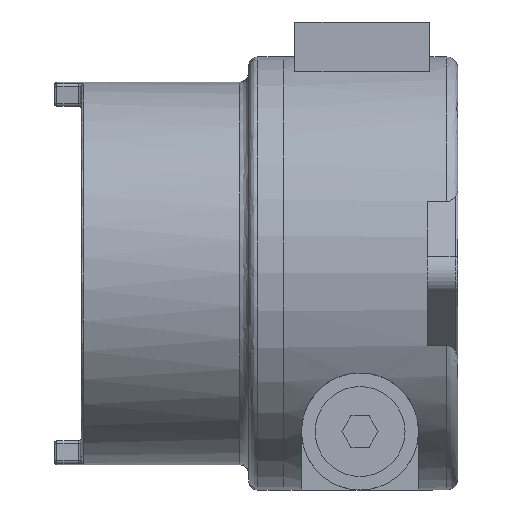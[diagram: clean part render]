
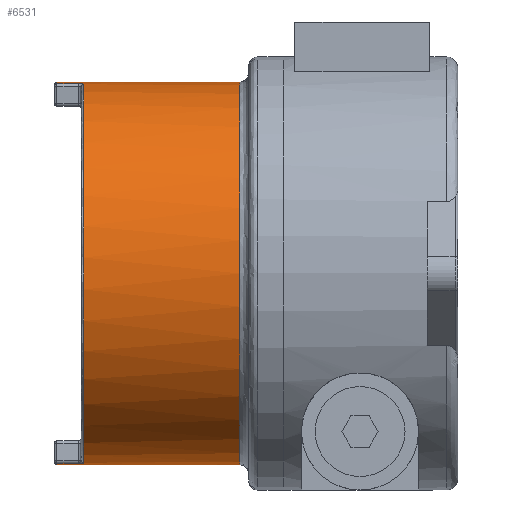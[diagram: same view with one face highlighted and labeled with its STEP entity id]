
A CAD part, left-side view. The second image highlights one B-rep face of the part: STEP entity #6531.
In plain terms, the highlighted cylindrical face has radius 53.975 mm (diameter 107.95 mm), a partial arc.
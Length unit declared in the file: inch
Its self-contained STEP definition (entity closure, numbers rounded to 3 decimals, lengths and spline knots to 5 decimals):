
#118 = CARTESIAN_POINT ( 'NONE',  ( -0.25135, 4.2175, -2.11008 ) ) ;
#151 = CARTESIAN_POINT ( 'NONE',  ( -0.25135, 4.2175, 2.11008 ) ) ;
#211 = EDGE_CURVE ( 'NONE', #8259, #247, #10815, .T. ) ;
#247 = VERTEX_POINT ( 'NONE', #9716 ) ;
#355 = LINE ( 'NONE', #7809, #2479 ) ;
#392 = CARTESIAN_POINT ( 'NONE',  ( -0.25293, 4.20174, 2.1099 ) ) ;
#448 = EDGE_CURVE ( 'NONE', #4415, #8259, #3884, .T. ) ;
#565 = CARTESIAN_POINT ( 'NONE',  ( -0.31176, 4.1575, -2.10201 ) ) ;
#583 = EDGE_CURVE ( 'NONE', #3743, #4752, #3339, .T. ) ;
#617 = EDGE_CURVE ( 'NONE', #9896, #8394, #3058, .T. ) ;
#618 = VECTOR ( 'NONE', #5596, 39.37008 ) ;
#812 = VERTEX_POINT ( 'NONE', #6332 ) ;
#992 = EDGE_LOOP ( 'NONE', ( #9943, #5588, #2148, #1003, #7889, #9983, #2869, #2731, #10411, #5581 ) ) ;
#1003 = ORIENTED_EDGE ( 'NONE', *, *, #6862, .T. ) ;
#1339 = CARTESIAN_POINT ( 'NONE',  ( -0.26355, 4.1805, 2.1086 ) ) ;
#1375 = DIRECTION ( 'NONE',  ( 0., -1., 0. ) ) ;
#1592 = DIRECTION ( 'NONE',  ( 0., 0., -1. ) ) ;
#1927 = CARTESIAN_POINT ( 'NONE',  ( -0.30382, 4.1575, -2.10318 ) ) ;
#2128 = CYLINDRICAL_SURFACE ( 'NONE', #3989, 2.125 ) ;
#2148 = ORIENTED_EDGE ( 'NONE', *, *, #11140, .T. ) ;
#2207 = CARTESIAN_POINT ( 'NONE',  ( -0.25135, 1.9375, 2.11008 ) ) ;
#2214 = CARTESIAN_POINT ( 'NONE',  ( -0.28141, 4.16503, 2.1063 ) ) ;
#2219 = EDGE_CURVE ( 'NONE', #812, #8394, #3299, .T. ) ;
#2316 = DIRECTION ( 'NONE',  ( 0., -1., 0. ) ) ;
#2479 = VECTOR ( 'NONE', #4280, 39.37008 ) ;
#2729 = EDGE_CURVE ( 'NONE', #4752, #4415, #9763, .T. ) ;
#2731 = ORIENTED_EDGE ( 'NONE', *, *, #211, .T. ) ;
#2738 = CARTESIAN_POINT ( 'NONE',  ( -0.25135, 1.9375, -2.11008 ) ) ;
#2809 = CARTESIAN_POINT ( 'NONE',  ( 0., 2.425, 2.125 ) ) ;
#2869 = ORIENTED_EDGE ( 'NONE', *, *, #448, .T. ) ;
#3058 = CIRCLE ( 'NONE', #8159, 2.125 ) ;
#3105 = CARTESIAN_POINT ( 'NONE',  ( -0.3038, 4.1575, 2.10319 ) ) ;
#3299 = LINE ( 'NONE', #5558, #618 ) ;
#3339 = CIRCLE ( 'NONE', #6407, 2.125 ) ;
#3514 = CARTESIAN_POINT ( 'NONE',  ( -0.25135, 4.4575, 2.11008 ) ) ;
#3708 = CARTESIAN_POINT ( 'NONE',  ( -0.27495, 4.16928, -2.10715 ) ) ;
#3743 = VERTEX_POINT ( 'NONE', #4199 ) ;
#3884 = LINE ( 'NONE', #2738, #10671 ) ;
#3989 = AXIS2_PLACEMENT_3D ( 'NONE', #7919, #8768, #4311 ) ;
#4199 = CARTESIAN_POINT ( 'NONE',  ( -0.31176, 4.1575, 2.10201 ) ) ;
#4280 = DIRECTION ( 'NONE',  ( 0., -1., 0. ) ) ;
#4311 = DIRECTION ( 'NONE',  ( 0., 0., -1. ) ) ;
#4415 = VERTEX_POINT ( 'NONE', #7282 ) ;
#4581 = CARTESIAN_POINT ( 'NONE',  ( -0.25916, 4.18694, -2.10914 ) ) ;
#4752 = VERTEX_POINT ( 'NONE', #565 ) ;
#4849 = CARTESIAN_POINT ( 'NONE',  ( -0.25135, 4.2175, 2.11008 ) ) ;
#5144 = DIRECTION ( 'NONE',  ( 0., -1., 0. ) ) ;
#5501 = CARTESIAN_POINT ( 'NONE',  ( -0.25136, 4.20945, -2.11008 ) ) ;
#5505 = LINE ( 'NONE', #2207, #9607 ) ;
#5558 = CARTESIAN_POINT ( 'NONE',  ( 0., 1.9375, 2.125 ) ) ;
#5581 = ORIENTED_EDGE ( 'NONE', *, *, #617, .T. ) ;
#5588 = ORIENTED_EDGE ( 'NONE', *, *, #5881, .T. ) ;
#5596 = DIRECTION ( 'NONE',  ( 0., -1., 0. ) ) ;
#5881 = EDGE_CURVE ( 'NONE', #812, #6539, #6573, .T. ) ;
#5999 = DIRECTION ( 'NONE',  ( 0., 0., -1. ) ) ;
#6151 = CARTESIAN_POINT ( 'NONE',  ( -0.25135, 4.4575, -2.11008 ) ) ;
#6332 = CARTESIAN_POINT ( 'NONE',  ( 0., 4.4575, 2.125 ) ) ;
#6407 = AXIS2_PLACEMENT_3D ( 'NONE', #11288, #5144, #5999 ) ;
#6531 = ADVANCED_FACE ( 'NONE', ( #11547 ), #2128, .T. ) ;
#6539 = VERTEX_POINT ( 'NONE', #3514 ) ;
#6573 = CIRCLE ( 'NONE', #11026, 2.125 ) ;
#6641 = CARTESIAN_POINT ( 'NONE',  ( -0.25912, 4.18703, 2.10915 ) ) ;
#6862 = EDGE_CURVE ( 'NONE', #10964, #3743, #8615, .T. ) ;
#7151 = DIRECTION ( 'NONE',  ( 0., 1., 0. ) ) ;
#7233 = CARTESIAN_POINT ( 'NONE',  ( -0.2962, 4.15899, -2.10427 ) ) ;
#7282 = CARTESIAN_POINT ( 'NONE',  ( -0.25135, 4.2175, -2.11008 ) ) ;
#7496 = EDGE_CURVE ( 'NONE', #247, #9896, #355, .T. ) ;
#7516 = CARTESIAN_POINT ( 'NONE',  ( -0.27488, 4.16934, 2.10715 ) ) ;
#7617 = CARTESIAN_POINT ( 'NONE',  ( 0., 4.4575, 0. ) ) ;
#7809 = CARTESIAN_POINT ( 'NONE',  ( 0., 1.9375, -2.125 ) ) ;
#7889 = ORIENTED_EDGE ( 'NONE', *, *, #583, .T. ) ;
#7919 = CARTESIAN_POINT ( 'NONE',  ( 0., 1.9375, 0. ) ) ;
#8015 = AXIS2_PLACEMENT_3D ( 'NONE', #8339, #8953, #8124 ) ;
#8103 = CARTESIAN_POINT ( 'NONE',  ( -0.31176, 4.1575, -2.10201 ) ) ;
#8124 = DIRECTION ( 'NONE',  ( 0., 0., -1. ) ) ;
#8159 = AXIS2_PLACEMENT_3D ( 'NONE', #10392, #9474, #1592 ) ;
#8259 = VERTEX_POINT ( 'NONE', #6151 ) ;
#8339 = CARTESIAN_POINT ( 'NONE',  ( 0., 4.4575, 0. ) ) ;
#8382 = CARTESIAN_POINT ( 'NONE',  ( -0.29614, 4.15901, 2.10428 ) ) ;
#8394 = VERTEX_POINT ( 'NONE', #2809 ) ;
#8485 = DIRECTION ( 'NONE',  ( 0., 0., -1. ) ) ;
#8615 = B_SPLINE_CURVE_WITH_KNOTS ( 'NONE', 3,
 ( #4849, #11038, #392, #6641, #1339, #7516, #2214, #8382, #3105, #9262 ),
 .UNSPECIFIED., .F., .F.,
 ( 4, 2, 2, 2, 4 ),
 ( 0., 0.25, 0.5, 0.75, 1. ),
 .UNSPECIFIED. ) ;
#8768 = DIRECTION ( 'NONE',  ( 0., -1., 0. ) ) ;
#8805 = CARTESIAN_POINT ( 'NONE',  ( 0., 2.425, -2.125 ) ) ;
#8953 = DIRECTION ( 'NONE',  ( 0., -1., 0. ) ) ;
#8970 = CARTESIAN_POINT ( 'NONE',  ( -0.28145, 4.16501, -2.10629 ) ) ;
#9262 = CARTESIAN_POINT ( 'NONE',  ( -0.31176, 4.1575, 2.10201 ) ) ;
#9474 = DIRECTION ( 'NONE',  ( 0., 1., 0. ) ) ;
#9607 = VECTOR ( 'NONE', #1375, 39.37008 ) ;
#9716 = CARTESIAN_POINT ( 'NONE',  ( 0., 4.4575, -2.125 ) ) ;
#9763 = B_SPLINE_CURVE_WITH_KNOTS ( 'NONE', 3,
 ( #8103, #1927, #7233, #8970, #3708, #9888, #4581, #10783, #5501, #118 ),
 .UNSPECIFIED., .F., .F.,
 ( 4, 2, 2, 2, 4 ),
 ( 0., 0.25, 0.5, 0.75, 1. ),
 .UNSPECIFIED. ) ;
#9888 = CARTESIAN_POINT ( 'NONE',  ( -0.26355, 4.1805, -2.1086 ) ) ;
#9896 = VERTEX_POINT ( 'NONE', #8805 ) ;
#9943 = ORIENTED_EDGE ( 'NONE', *, *, #2219, .F. ) ;
#9983 = ORIENTED_EDGE ( 'NONE', *, *, #2729, .T. ) ;
#10392 = CARTESIAN_POINT ( 'NONE',  ( 0., 2.425, 0. ) ) ;
#10411 = ORIENTED_EDGE ( 'NONE', *, *, #7496, .T. ) ;
#10671 = VECTOR ( 'NONE', #7151, 39.37008 ) ;
#10783 = CARTESIAN_POINT ( 'NONE',  ( -0.25292, 4.20173, -2.1099 ) ) ;
#10815 = CIRCLE ( 'NONE', #8015, 2.125 ) ;
#10964 = VERTEX_POINT ( 'NONE', #151 ) ;
#11026 = AXIS2_PLACEMENT_3D ( 'NONE', #7617, #2316, #8485 ) ;
#11038 = CARTESIAN_POINT ( 'NONE',  ( -0.25136, 4.20947, 2.11008 ) ) ;
#11140 = EDGE_CURVE ( 'NONE', #6539, #10964, #5505, .T. ) ;
#11288 = CARTESIAN_POINT ( 'NONE',  ( 0., 4.1575, 0. ) ) ;
#11547 = FACE_OUTER_BOUND ( 'NONE', #992, .T. ) ;
